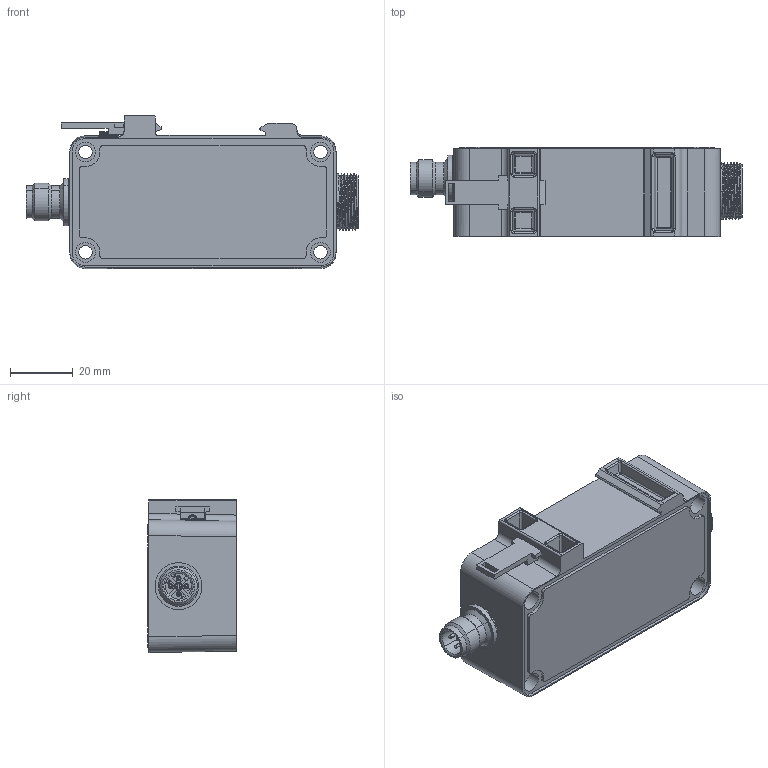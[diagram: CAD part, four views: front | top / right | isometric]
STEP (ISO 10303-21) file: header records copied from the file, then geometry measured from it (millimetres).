
FILE_DESCRIPTION((''),'2;1');
FILE_NAME('0000375656_ASM','2021-04-14T11:05:40',('11000714'),(''),'CREO PARAMETRIC BY PTC INC, 2020184','CREO PARAMETRIC BY PTC INC, 2020184','');
FILE_SCHEMA(('AUTOMOTIVE_DESIGN { 1 0 10303 214 1 1 1 1 }'));
Products named in the file (11): 0000375645; 0000375653; 0000375679; 0000375683; 0000375674; 0000375648; 0000375673_ASM; 0000375671; 0000375659; 0000375661; 0000375656_ASM
Assembly tree (14 placements, depth 3):
  0000375656_ASM
    0000375645
    0000375653
    0000375679
    0000375683
    0000375674  x2
    0000375673_ASM
      0000375648
    0000375671
    0000375659  x4
    0000375661
Bounding box: 106 x 28.4 x 48.9 mm (x, y, z)
Volume: 38199.4 mm3; surface area: 39727.1 mm2
Topology: 13 solids, 14 shells, 2158 faces, 7489 edges, 5454 vertices
Faces by surface type: plane 1591, cylinder 317, extrusion 84, cone 76, torus 40, sphere 26, bspline 24
Entity records: 136158 total; most frequent: CARTESIAN_POINT 37851, DIRECTION 12266, ORIENTED_EDGE 11506, PRESENTATION_STYLE_ASSIGNMENT 7468, CURVE_STYLE 7353, STYLED_ITEM 7336, VECTOR 6218, LINE 6134
